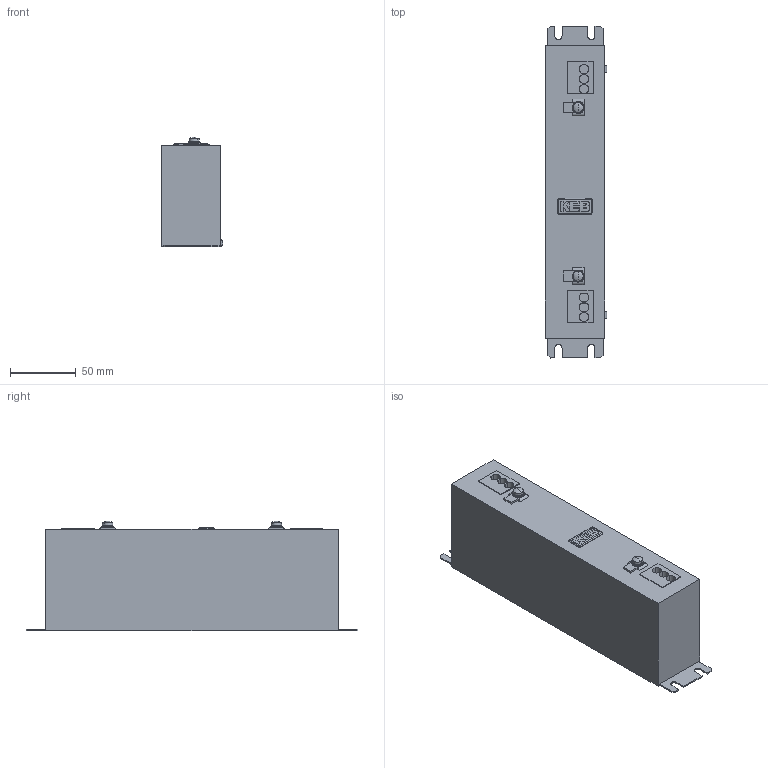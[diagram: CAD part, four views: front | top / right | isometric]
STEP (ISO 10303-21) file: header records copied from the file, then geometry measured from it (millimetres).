
FILE_DESCRIPTION (( 'STEP AP214' ), '1' );
FILE_NAME ('00E6X01-0012.STEP', '2023-07-10T13:57:50', ( '' ), ( '' ), 'SwSTEP 2.0', 'SolidWorks 2022', '' );
FILE_SCHEMA (( 'AUTOMOTIVE_DESIGN' ));
Length unit declared in the file: millimetre
Products named in the file (1): 00E6X01-0012
Bounding box: 46.7 x 252 x 83.1 mm (x, y, z)
Volume: 770891.1 mm3; surface area: 64574.6 mm2
Topology: 1 solids, 1 shells, 188 faces, 487 edges, 320 vertices
Faces by surface type: plane 122, cylinder 45, bspline 13, sphere 4, cone 4
Entity records: 6636 total; most frequent: CARTESIAN_POINT 1889, ORIENTED_EDGE 974, DIRECTION 855, EDGE_CURVE 487, VERTEX_POINT 320, VECTOR 291, LINE 291, AXIS2_PLACEMENT_3D 282
